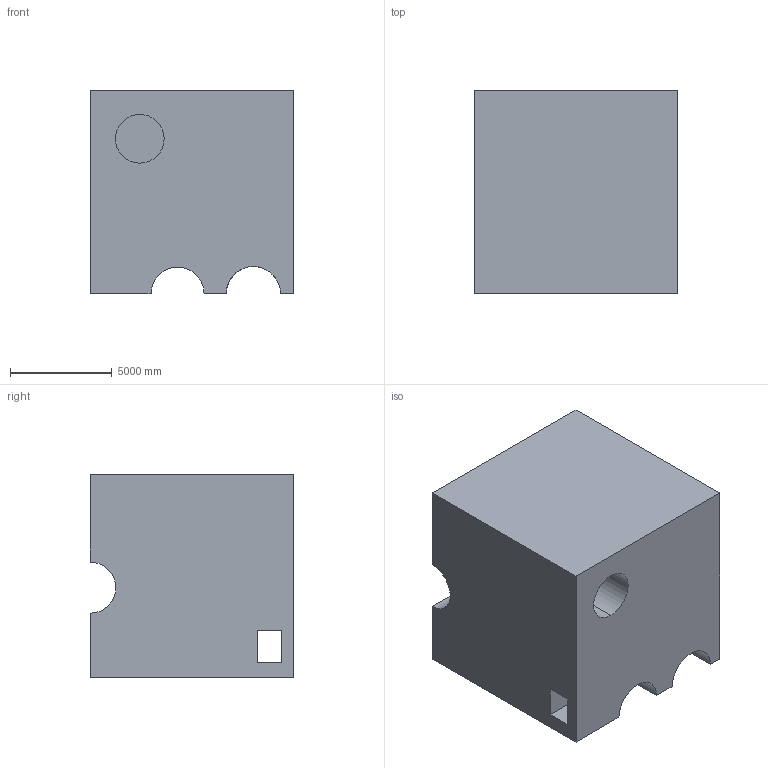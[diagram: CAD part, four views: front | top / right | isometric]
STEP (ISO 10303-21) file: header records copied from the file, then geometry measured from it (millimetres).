
FILE_DESCRIPTION (( 'STEP AP203' ), '1' );
FILE_NAME ('1569.STEP', '2022-08-26T10:27:38', ( 'user' ), ( '' ), 'SwSTEP 2.0', 'SolidWorks 2021', '' );
FILE_SCHEMA (( 'CONFIG_CONTROL_DESIGN' ));
Length unit declared in the file: centimetre
Products named in the file (1): 1569
Bounding box: 10000 x 10000 x 10000 mm (x, y, z)
Volume: 869749463408.1 mm3; surface area: 739209381.7 mm2
Topology: 1 solids, 1 shells, 27 faces, 84 edges, 56 vertices
Faces by surface type: plane 20, cylinder 7
Entity records: 1029 total; most frequent: CARTESIAN_POINT 174, ORIENTED_EDGE 168, DIRECTION 160, EDGE_CURVE 84, VECTOR 60, LINE 60, VERTEX_POINT 56, AXIS2_PLACEMENT_3D 50
